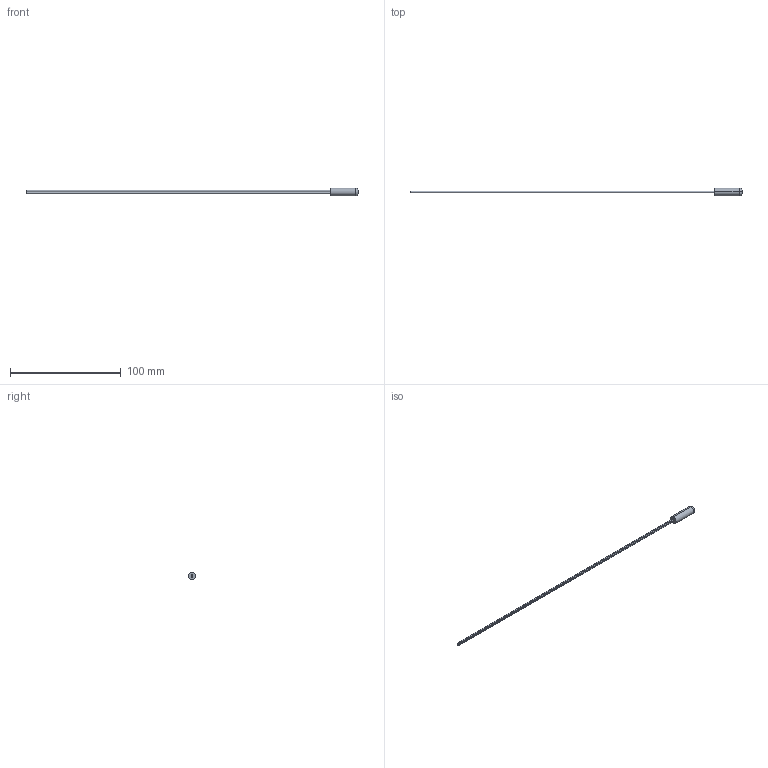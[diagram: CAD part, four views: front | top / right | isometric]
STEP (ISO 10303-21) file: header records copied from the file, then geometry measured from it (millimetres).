
FILE_DESCRIPTION (( 'STEP AP214' ), '1' );
FILE_NAME ('NTCACAPE3C90193 Vishay 3D STP.STEP', '2014-09-08T09:25:27', ( 'Vishay Intertechnology, Inc.' ), ( 'Vishay Intertechnology, Inc.' ), 'SwSTEP 2.0', 'SolidWorks 2014', '' );
FILE_SCHEMA (( 'AUTOMOTIVE_DESIGN' ));
Length unit declared in the file: millimetre
Products named in the file (1): NTCACAPE3C90193 Vishay 3D STP
Bounding box: 300 x 7 x 7 mm (x, y, z)
Volume: 1899.3 mm3; surface area: 4624.1 mm2
Topology: 4 solids, 4 shells, 23 faces, 43 edges, 28 vertices
Faces by surface type: cylinder 13, plane 8, torus 2
Entity records: 913 total; most frequent: DIRECTION 121, CARTESIAN_POINT 95, ORIENTED_EDGE 86, AXIS2_PLACEMENT_3D 54, EDGE_CURVE 43, CIRCLE 30, UNCERTAINTY_MEASURE_WITH_UNIT 29, MECHANICAL_DESIGN_GEOMETRIC_PRESENTATION_REPRESENTATION 28
